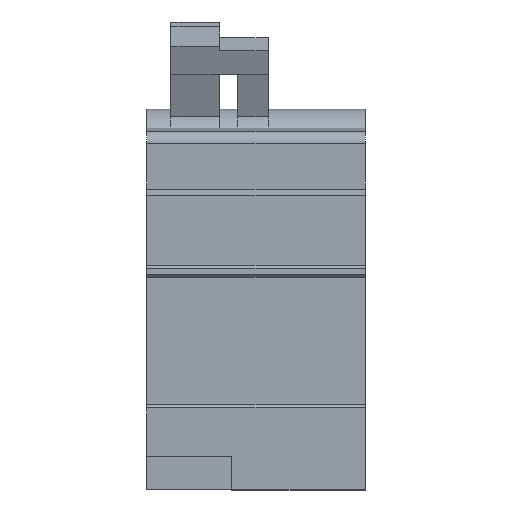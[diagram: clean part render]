
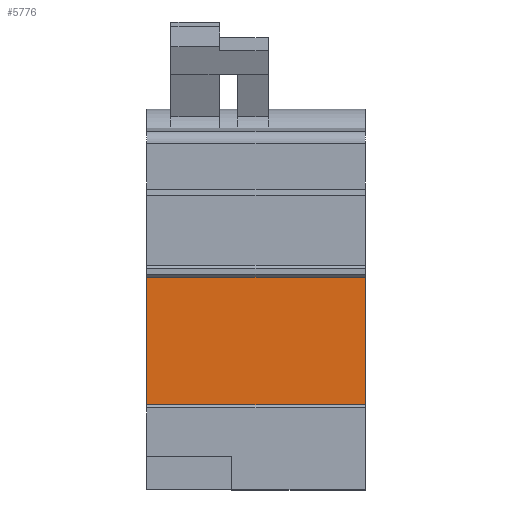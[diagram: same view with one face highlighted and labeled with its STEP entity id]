
A CAD part, front view. The second image highlights one B-rep face of the part: STEP entity #5776.
In plain terms, the highlighted planar face has unit normal (0, -1, 0).
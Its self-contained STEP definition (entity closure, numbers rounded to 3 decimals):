
#201=LINE('',#8057,#714);
#433=LINE('',#9756,#946);
#496=LINE('',#9904,#1009);
#497=LINE('',#9906,#1010);
#714=VECTOR('',#6534,10.);
#946=VECTOR('',#7250,10.);
#1009=VECTOR('',#7401,10.);
#1010=VECTOR('',#7404,10.);
#1354=PLANE('',#6253);
#1752=FACE_OUTER_BOUND('',#2154,.T.);
#2154=EDGE_LOOP('',(#4866,#4867,#4868,#4869));
#2520=VERTEX_POINT('',#8054);
#2521=VERTEX_POINT('',#8056);
#2820=VERTEX_POINT('',#9753);
#2821=VERTEX_POINT('',#9755);
#3084=EDGE_CURVE('',#2520,#2521,#201,.T.);
#3499=EDGE_CURVE('',#2821,#2820,#433,.T.);
#3574=EDGE_CURVE('',#2820,#2521,#496,.T.);
#3575=EDGE_CURVE('',#2821,#2520,#497,.T.);
#4866=ORIENTED_EDGE('',*,*,#3499,.T.);
#4867=ORIENTED_EDGE('',*,*,#3574,.T.);
#4868=ORIENTED_EDGE('',*,*,#3084,.F.);
#4869=ORIENTED_EDGE('',*,*,#3575,.F.);
#5776=ADVANCED_FACE('',(#1752),#1354,.T.);
#6253=AXIS2_PLACEMENT_3D('',#9905,#7402,#7403);
#6534=DIRECTION('',(0.,0.,-1.));
#7250=DIRECTION('',(0.,0.,-1.));
#7401=DIRECTION('',(1.,0.,0.));
#7402=DIRECTION('center_axis',(0.,-1.,0.));
#7403=DIRECTION('ref_axis',(0.,0.,-1.));
#7404=DIRECTION('',(1.,0.,0.));
#8054=CARTESIAN_POINT('',(36.,-6.653,-21.84));
#8056=CARTESIAN_POINT('',(36.,-6.653,-42.84));
#8057=CARTESIAN_POINT('',(36.,-6.653,-21.84));
#9753=CARTESIAN_POINT('',(0.,-6.653,-42.84));
#9755=CARTESIAN_POINT('',(0.,-6.653,-21.84));
#9756=CARTESIAN_POINT('',(0.,-6.653,-21.84));
#9904=CARTESIAN_POINT('',(0.,-6.653,-42.84));
#9905=CARTESIAN_POINT('Origin',(0.,-6.653,-21.84));
#9906=CARTESIAN_POINT('',(0.,-6.653,-21.84));
